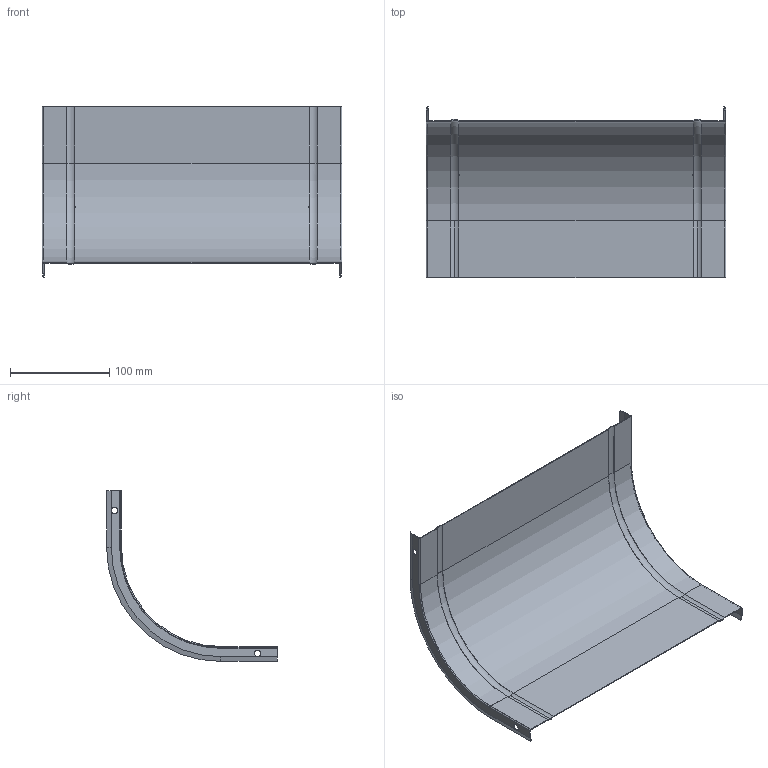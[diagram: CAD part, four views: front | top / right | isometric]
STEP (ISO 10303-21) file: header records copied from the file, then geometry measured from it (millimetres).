
FILE_DESCRIPTION (( 'STEP AP203' ), '1' );
FILE_NAME ('ERE_TAPA CCERC 300.step', '2023-07-28T14:53:50', ( '' ), ( '' ), 'SwSTEP 2.0', 'SolidWorks 2022', '' );
FILE_SCHEMA (( 'CONFIG_CONTROL_DESIGN' ));
Length unit declared in the file: millimetre
Products named in the file (1): ERE_TAPA CCERC 300
Bounding box: 302 x 172 x 172 mm (x, y, z)
Volume: 72196.7 mm3; surface area: 181288.7 mm2
Topology: 1 solids, 1 shells, 78 faces, 220 edges, 136 vertices
Faces by surface type: cylinder 36, plane 30, torus 8, cone 4
Entity records: 2605 total; most frequent: CARTESIAN_POINT 471, DIRECTION 450, ORIENTED_EDGE 440, EDGE_CURVE 220, AXIS2_PLACEMENT_3D 163, VERTEX_POINT 136, LINE 124, VECTOR 124
